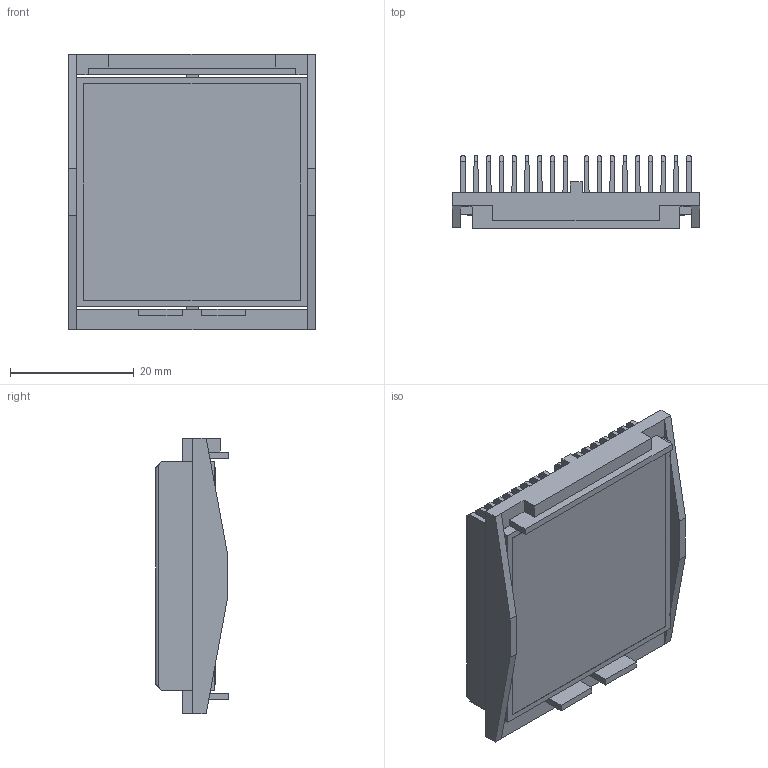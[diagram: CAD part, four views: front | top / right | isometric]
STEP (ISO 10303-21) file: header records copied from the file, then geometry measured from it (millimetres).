
FILE_DESCRIPTION (( 'STEP AP214' ), '1' );
FILE_NAME ('INL37.5001-10-1.7Y.STEP', '2023-03-01T15:45:31', ( '' ), ( '' ), 'SwSTEP 2.0', 'SolidWorks 2020', '' );
FILE_SCHEMA (( 'AUTOMOTIVE_DESIGN' ));
Length unit declared in the file: millimetre
Products named in the file (1): INL37.5001-10-1.7Y
Bounding box: 40.1 x 11.8 x 44.6 mm (x, y, z)
Volume: 7765.3 mm3; surface area: 18111.8 mm2
Topology: 3 solids, 3 shells, 198 faces, 578 edges, 384 vertices
Faces by surface type: plane 146, cylinder 52
Entity records: 8712 total; most frequent: CARTESIAN_POINT 1269, ORIENTED_EDGE 1156, DIRECTION 1008, EDGE_CURVE 578, LINE 474, VECTOR 474, VERTEX_POINT 384, AXIS2_PLACEMENT_3D 267
